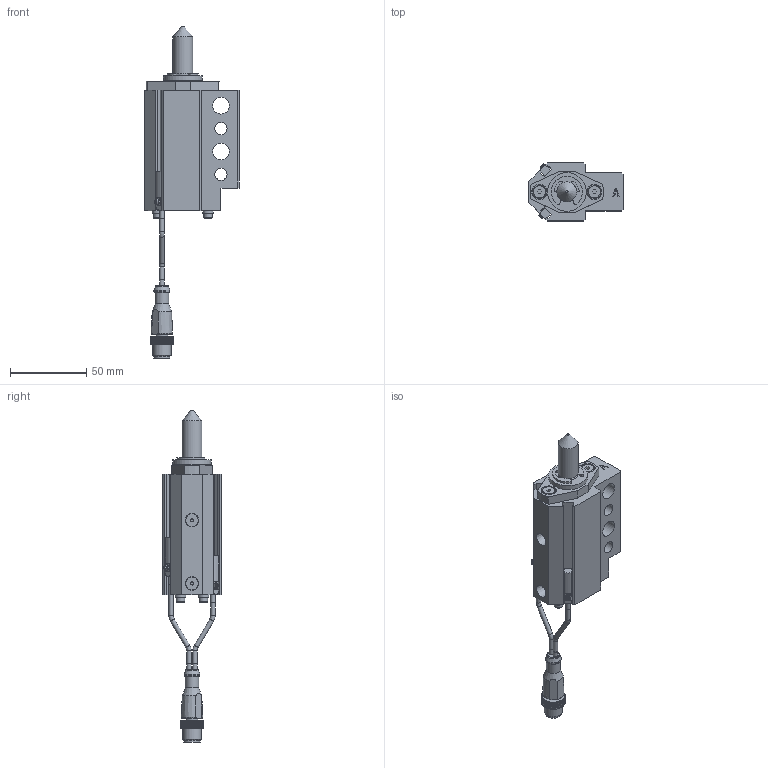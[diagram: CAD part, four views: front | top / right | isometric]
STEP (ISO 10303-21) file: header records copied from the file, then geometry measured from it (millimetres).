
FILE_DESCRIPTION(/* description */ ('NAAMS FLOATING MICRO PIN'),/* implementation_level */ '2;1');
FILE_NAME(/* name */ 'C:\Vault Workspace\CAD\Welker\Shot Pin\NMP\NMP130022AANL3.stp',/* time_stamp */ '2021-01-27T10:58:13-05:00',/* author */ ('WELKER'),/* organization */ (''),/* preprocessor_version */ 'ST-DEVELOPER v18.1',/* originating_system */ 'Autodesk Inventor 2020',/* authorisation */ '');
FILE_SCHEMA (('AUTOMOTIVE_DESIGN { 1 0 10303 214 3 1 1 }'));
Length unit declared in the file: millimetre
Products named in the file (16): NMPL01; NMP L3 SWITCH; L3 Connector; L3 Sensor 1; L3 Sensor 2; L3 Sensor cable; L3 Sensor cable 2; M3X0.5-8 SHCS; NL3; NMPE06; NMPE03; NMPE05-DIA-LENGTH; 985432A218; NMPE01A-PORT; RMPE02; M5X5 SHOULDER
Assembly tree (22 placements, depth 3):
  NMPL01
    NMP L3 SWITCH
      L3 Connector
      L3 Sensor 1
      L3 Sensor 2
      L3 Sensor cable
      L3 Sensor cable 2
    M3X0.5-8 SHCS  x4
    NL3  x4
    NMPE06
    NMPE03
    NMPE05-DIA-LENGTH
    985432A218
    NMPE01A-PORT
    RMPE02
    M5X5 SHOULDER  x2
Bounding box: 62 x 38.1 x 217.71 mm (x, y, z)
Volume: 111079.1 mm3; surface area: 46026.9 mm2
Topology: 21 solids, 21 shells, 742 faces, 2013 edges, 1345 vertices
Faces by surface type: plane 552, cylinder 143, cone 31, torus 11, sphere 3, bspline 2
Full cylindrical faces by diameter (mm): 2 x2, 2.459 x4, 2.9 x10, 3 x5, 3.242 x2, 3.4 x4, 4 x2, 5 x6, 5.5 x4, 7 x4, 8 x2, 8.3 x2, 9 x3, 10 x3, 10.4 x1, 10.5 x1, 11 x2, 12 x1, 13 x3, 16 x2, 19.05 x3, 21 x1, 22.5 x1, 23.672 x1, 24 x1, 25.4 x1, 25.5 x1, 26.5 x1, 28.677 x1, 29.21 x1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
Entity records: 22687 total; most frequent: CARTESIAN_POINT 4144, ORIENTED_EDGE 3724, DIRECTION 3704, EDGE_CURVE 1862, LINE 1382, VECTOR 1382, VERTEX_POINT 1250, AXIS2_PLACEMENT_3D 1161
